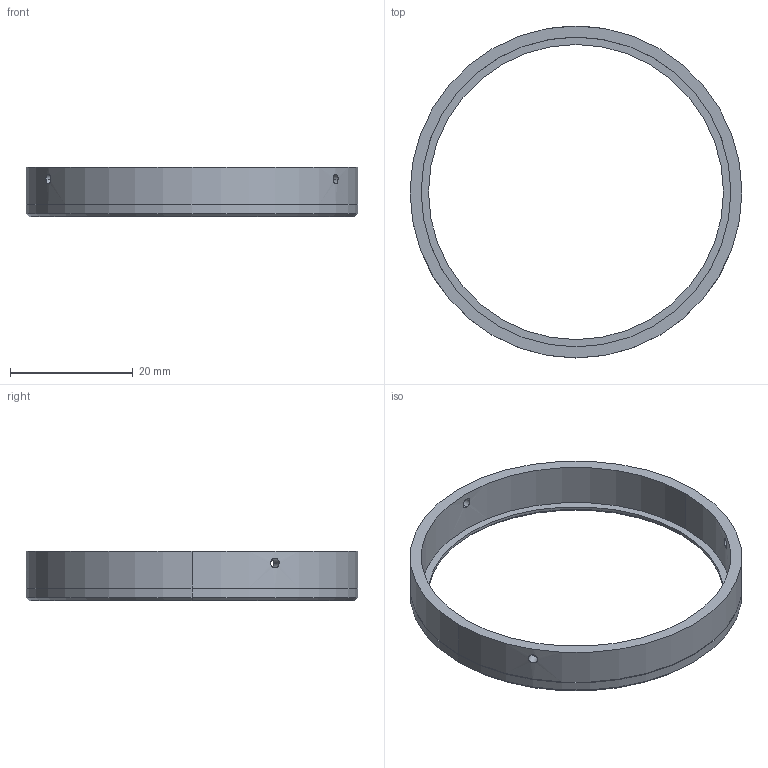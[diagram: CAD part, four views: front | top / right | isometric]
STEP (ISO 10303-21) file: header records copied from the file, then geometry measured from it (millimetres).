
FILE_DESCRIPTION (( 'STEP AP203' ), '1' );
FILE_NAME ('CV-AD-R-50X28-75(IMC-AD-R-50X28-75).STEP', '2024-03-22T10:00:30', ( '' ), ( '' ), 'SwSTEP 2.0', 'SolidWorks 2020', '' );
FILE_SCHEMA (( 'CONFIG_CONTROL_DESIGN' ));
Length unit declared in the file: millimetre
Products named in the file (1): CV-AD-R-50X28-75(IMC-AD-R-50X28-75)
Bounding box: 54 x 54 x 8 mm (x, y, z)
Volume: 2495.3 mm3; surface area: 3521.5 mm2
Topology: 1 solids, 1 shells, 25 faces, 56 edges, 34 vertices
Faces by surface type: cylinder 14, cone 8, plane 3
Entity records: 929 total; most frequent: CARTESIAN_POINT 284, DIRECTION 118, ORIENTED_EDGE 112, EDGE_CURVE 56, AXIS2_PLACEMENT_3D 48, VERTEX_POINT 34, EDGE_LOOP 34, ADVANCED_FACE 25
